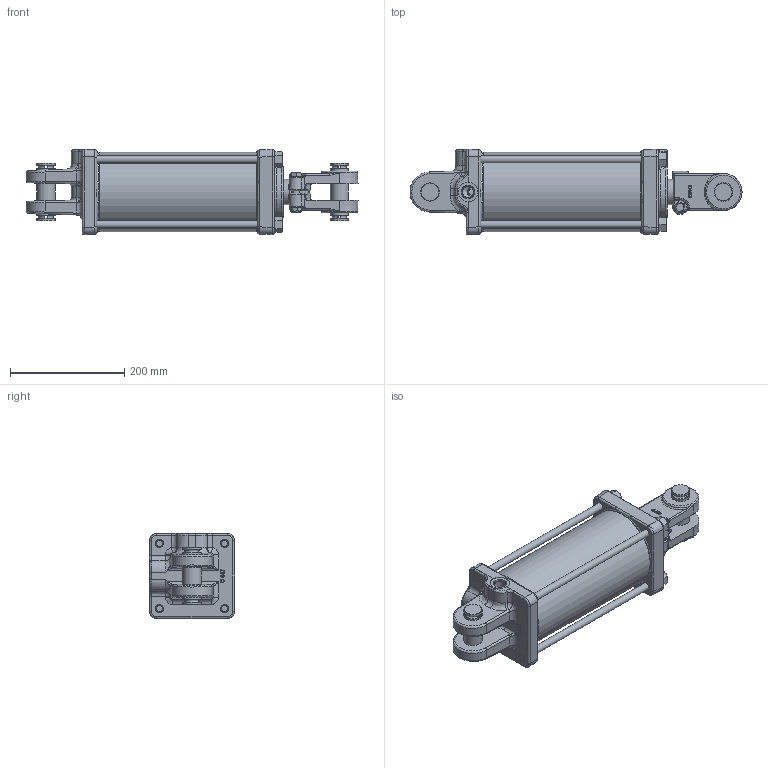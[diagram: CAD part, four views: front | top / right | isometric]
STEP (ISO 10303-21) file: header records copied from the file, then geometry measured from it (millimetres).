
FILE_DESCRIPTION(/* description */ (''),/* implementation_level */ '2;1');
FILE_NAME(/* name */ '\\SRVR-ENG\EngSales\Cylinders\SAE-8208.stp',/* time_stamp */ '2014-01-10T13:13:03-06:00',/* author */ ('KneiflD'),/* organization */ ('PRINCE MANUFACTURING'),/* preprocessor_version */ 'ST-DEVELOPER v15.2',/* originating_system */ 'Autodesk Inventor 2014',/* authorisation */ '0 in^3');
FILE_SCHEMA (('AUTOMOTIVE_DESIGN { 1 0 10303 214 3 1 1 }'));
Length unit declared in the file: inch
Products named in the file (15): 142100035; 011000039; 072100002; 220000212; 082100184; 052100010; 170301136; 220000107V; 100000361; 170002105; 220000223; 100000362; 190600016_BT-0016; SAE-8208
Bounding box: 581.85 x 149.35 x 149.35 mm (x, y, z)
Volume: 4080055 mm3; surface area: 687416.1 mm2
Topology: 19 solids, 19 shells, 1006 faces, 2384 edges, 1430 vertices
Faces by surface type: bspline 313, plane 284, cylinder 209, cone 117, torus 71, sphere 12
Full cylindrical faces by diameter (mm): 5.156 x4, 9.144 x1, 11.112 x1, 11.938 x2, 12.7 x4, 14.351 x8, 16.272 x4, 19.837 x2, 20.472 x3, 29.464 x1, 31.699 x1, 31.75 x6, 31.826 x1, 32.131 x4, 34.315 x1, 34.392 x2, 35.331 x1, 37.897 x1, 44.45 x1, 44.526 x2, 48.26 x1, 52.375 x1, 54 x1, 76.2 x1, 115.011 x1, 121.336 x2, 126.746 x6, 127 x1, 139.7 x1
Entity records: 31778 total; most frequent: CARTESIAN_POINT 12424, ORIENTED_EDGE 3986, DIRECTION 3384, EDGE_CURVE 1993, AXIS2_PLACEMENT_3D 1334, VERTEX_POINT 1278, EDGE_LOOP 1123, ADVANCED_FACE 907
